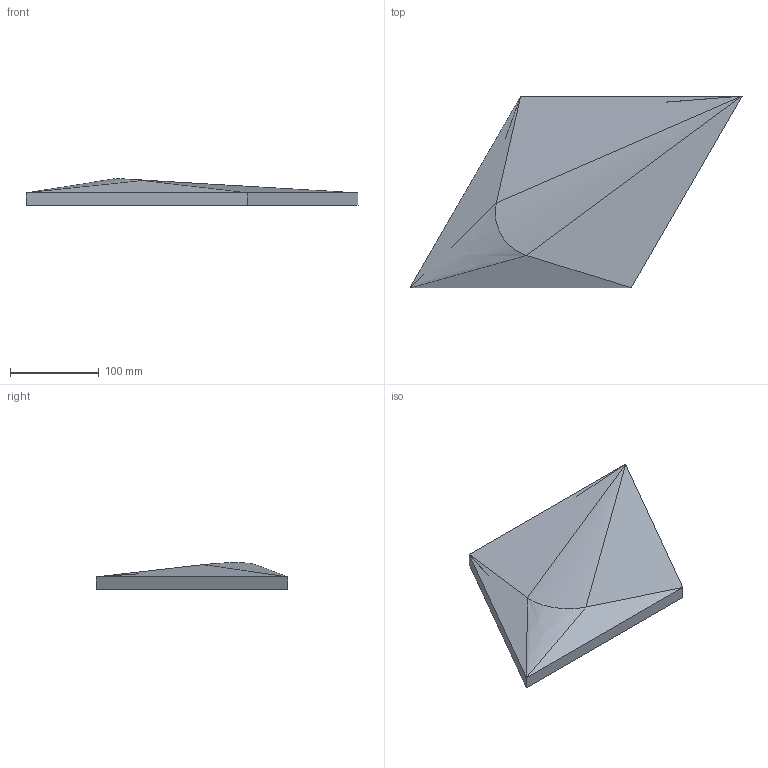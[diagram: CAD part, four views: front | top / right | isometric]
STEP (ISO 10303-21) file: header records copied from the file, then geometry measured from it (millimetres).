
FILE_DESCRIPTION(/* description */ (''),/* implementation_level */ '2;1');
FILE_NAME(/* name */ 'S01_CA~1',/* time_stamp */ '2022-11-14T20:28:55+01:00',/* author */ (''),/* organization */ (''),/* preprocessor_version */ 'ST-DEVELOPER v15',/* originating_system */ '',/* authorisation */ '');
FILE_SCHEMA (('AUTOMOTIVE_DESIGN'));
Length unit declared in the file: millimetre
Products named in the file (1): Document
Bounding box: 375 x 216.51 x 29.99 mm (x, y, z)
Volume: 1089987.4 mm3; surface area: 123194.1 mm2
Topology: 1 solids, 1 shells, 11 faces, 25 edges, 10 vertices
Faces by surface type: bspline 7, plane 4
Entity records: 397 total; most frequent: CARTESIAN_POINT 238, ORIENTED_EDGE 38, EDGE_CURVE 19, B_SPLINE_CURVE_WITH_KNOTS 16, ADVANCED_FACE 11, FACE_OUTER_BOUND 11, EDGE_LOOP 11, VERTEX_POINT 10
